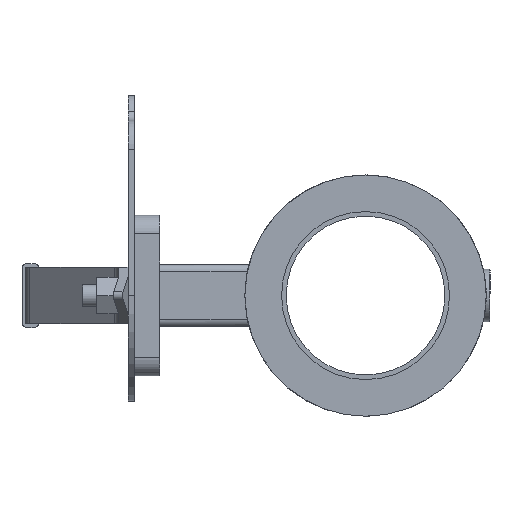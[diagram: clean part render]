
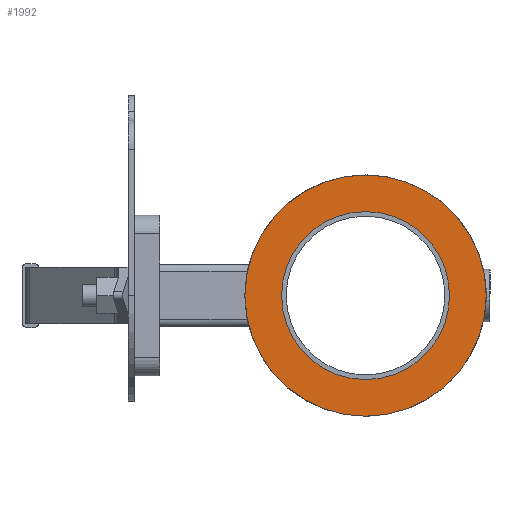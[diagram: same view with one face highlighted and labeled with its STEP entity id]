
A CAD part, left-side view. The second image highlights one B-rep face of the part: STEP entity #1992.
In plain terms, the highlighted planar face has unit normal (-1, 0, 0).
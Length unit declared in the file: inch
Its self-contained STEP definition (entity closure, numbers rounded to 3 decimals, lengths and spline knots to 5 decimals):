
#49=FACE_BOUND('',#278,.T.);
#86=PLANE('',#2252);
#157=FACE_OUTER_BOUND('',#277,.T.);
#277=EDGE_LOOP('',(#1431,#1432));
#278=EDGE_LOOP('',(#1433,#1434));
#674=CIRCLE('',#2174,2.065);
#675=CIRCLE('',#2175,2.065);
#716=CIRCLE('',#2250,1.385);
#717=CIRCLE('',#2251,1.385);
#801=VERTEX_POINT('',#3049);
#802=VERTEX_POINT('',#3051);
#858=VERTEX_POINT('',#3271);
#859=VERTEX_POINT('',#3272);
#982=EDGE_CURVE('',#801,#802,#674,.T.);
#983=EDGE_CURVE('',#802,#801,#675,.T.);
#1068=EDGE_CURVE('',#858,#859,#716,.T.);
#1069=EDGE_CURVE('',#859,#858,#717,.T.);
#1431=ORIENTED_EDGE('',*,*,#983,.F.);
#1432=ORIENTED_EDGE('',*,*,#982,.F.);
#1433=ORIENTED_EDGE('',*,*,#1068,.T.);
#1434=ORIENTED_EDGE('',*,*,#1069,.T.);
#1992=ADVANCED_FACE('',(#157,#49),#86,.T.);
#2174=AXIS2_PLACEMENT_3D('',#3052,#2409,#2410);
#2175=AXIS2_PLACEMENT_3D('',#3053,#2411,#2412);
#2250=AXIS2_PLACEMENT_3D('',#3273,#2601,#2602);
#2251=AXIS2_PLACEMENT_3D('',#3274,#2603,#2604);
#2252=AXIS2_PLACEMENT_3D('',#3276,#2606,#2607);
#2409=DIRECTION('center_axis',(1.,0.,0.));
#2410=DIRECTION('ref_axis',(0.,0.,-1.));
#2411=DIRECTION('center_axis',(1.,0.,0.));
#2412=DIRECTION('ref_axis',(0.,0.,-1.));
#2601=DIRECTION('center_axis',(1.,0.,0.));
#2602=DIRECTION('ref_axis',(0.,0.,-1.));
#2603=DIRECTION('center_axis',(1.,0.,0.));
#2604=DIRECTION('ref_axis',(0.,0.,-1.));
#2606=DIRECTION('center_axis',(-1.,0.,0.));
#2607=DIRECTION('ref_axis',(0.,0.,1.));
#3049=CARTESIAN_POINT('',(-1.39,-2.065,0.));
#3051=CARTESIAN_POINT('',(-1.39,2.065,0.));
#3052=CARTESIAN_POINT('Origin',(-1.39,0.,0.));
#3053=CARTESIAN_POINT('Origin',(-1.39,0.,0.));
#3271=CARTESIAN_POINT('',(-1.39,1.385,0.));
#3272=CARTESIAN_POINT('',(-1.39,-1.385,0.));
#3273=CARTESIAN_POINT('Origin',(-1.39,0.,0.));
#3274=CARTESIAN_POINT('Origin',(-1.39,0.,0.));
#3276=CARTESIAN_POINT('Origin',(-1.39,1.4375,0.));
